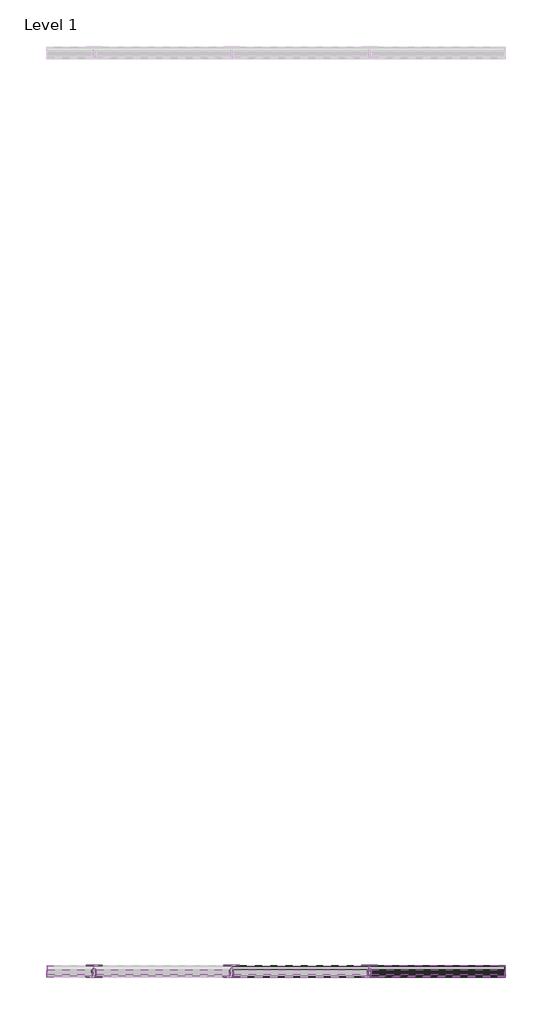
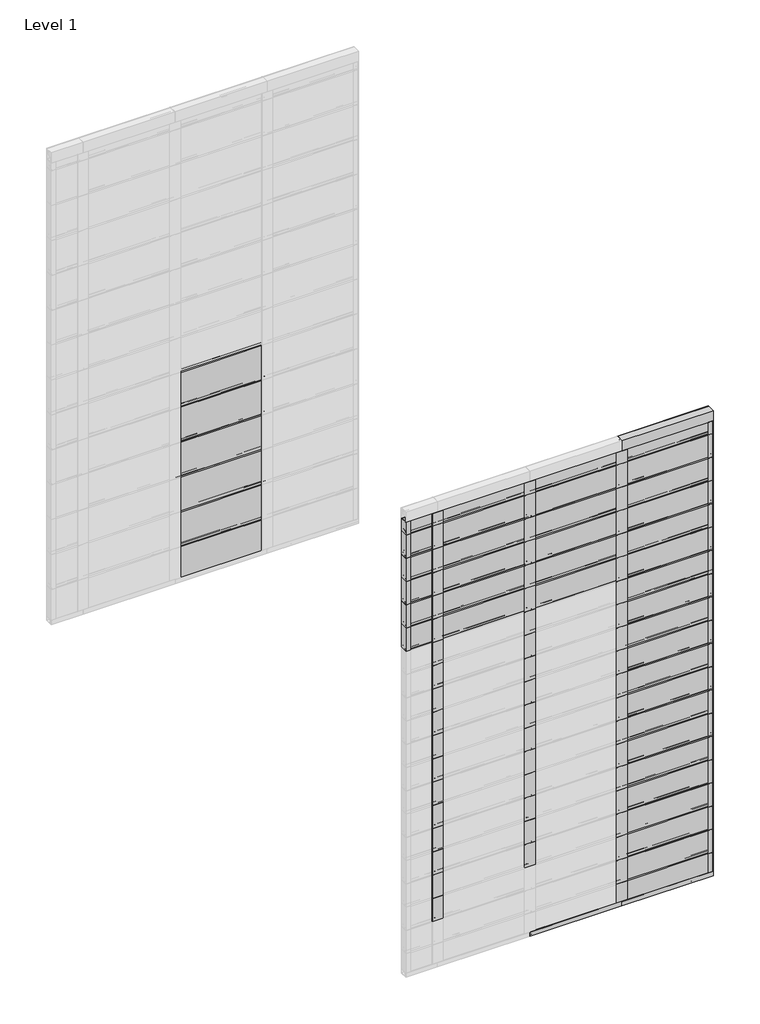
# One storey, part 5 of 6: 84 members, 44 plates.
"""IFC4 building model written with IfcOpenShell, lengths in millimetres."""

from ifc_helpers import new_model, si_unit, origin, place, context, project, spatial, transform, mapped, element, save
from components import rectangular_mullion_fastplank_2_piece_j_trim_top_41258425, rectangular_mullion_fastplank_2_piece_vertical_trim_b8f20e14, rectangular_mullion_fastplank_2_piece_vertical_trim_8e228b97, rectangular_mullion_fastplank_2_piece_vertical_trim_78afc4f4, rectangular_mullion_fastplank_general_j_vertical_left_750d52f3, rectangular_mullion_fastplank_general_j_vertical_left_688eca9a, rectangular_mullion_fastplank_general_j_vertical_left_7844d5d4, rectangular_mullion_fastplank_perforated_starter_j_trim_76a2169d, rectangular_mullion_fastplank_perforated_starter_j_trim_a5b82761, plate_9c8115fe, plate_4d58e162, plate_b9223dce, plate_ab3a2ce4, plate_89dcd24a

model = new_model("IFC4")

# Units and contexts
model_context = context("Model", 3, world=origin())
ifc_project = project(units=[si_unit("LENGTHUNIT", "METRE", prefix="MILLI")], contexts=[model_context])

# Site, building, storey
site = spatial("IfcSite", under=ifc_project)
building = spatial("IfcBuilding", under=site)
storey = spatial("IfcBuildingStorey", under=building, Name="Level 1", Elevation=0.0)

# Members
placement = place(None, origin())
rectangular_mullion_fastplank_2_piece_j_trim_top_shape = rectangular_mullion_fastplank_2_piece_j_trim_top_41258425(model_context)
element("IfcMember", 1, ObjectType="Rectangular Mullion : FastPlank_2-Piece-J-Trim-Top", at=placement, inside=storey, context=model_context, shape_type="MappedRepresentation", body=[
    mapped(rectangular_mullion_fastplank_2_piece_j_trim_top_shape, transform((-999.5316441, 7024.9134647, 2032.0), x_axis=(0.0, 0.0, 1.0), y_axis=(0.0, 1.0, 0.0), z_axis=(-1.0, 0.0, 0.0))),
])
rectangular_mullion_fastplank_2_piece_vertical_trim_shape = rectangular_mullion_fastplank_2_piece_vertical_trim_b8f20e14(model_context)
element("IfcMember", 2, ObjectType="Rectangular Mullion : FastPlank_2-Piece-Vertical-Trim", at=placement, inside=storey, context=model_context, shape_type="MappedRepresentation", body=[
    mapped(rectangular_mullion_fastplank_2_piece_vertical_trim_shape, transform((-999.5316441, 7024.9134647, 102.9000189), x_axis=(-1.0, 0.0, 0.0), y_axis=(0.0, 1.0, 0.0), z_axis=(0.0, 0.0, -1.0))),
])
element("IfcMember", 3, ObjectType="Rectangular Mullion : FastPlank_2-Piece-Vertical-Trim", at=placement, inside=storey, context=model_context, shape_type="MappedRepresentation", body=[
    mapped(rectangular_mullion_fastplank_2_piece_vertical_trim_shape, transform((-999.5316441, 7024.9134647, 204.5000189), x_axis=(-1.0, 0.0, 0.0), y_axis=(0.0, 1.0, 0.0), z_axis=(0.0, 0.0, -1.0))),
])
element("IfcMember", 4, ObjectType="Rectangular Mullion : FastPlank_2-Piece-Vertical-Trim", at=placement, inside=storey, context=model_context, shape_type="MappedRepresentation", body=[
    mapped(rectangular_mullion_fastplank_2_piece_vertical_trim_shape, transform((-999.5316441, 7024.9134647, 306.1000189), x_axis=(-1.0, 0.0, 0.0), y_axis=(0.0, 1.0, 0.0), z_axis=(0.0, 0.0, -1.0))),
])
element("IfcMember", 5, ObjectType="Rectangular Mullion : FastPlank_2-Piece-Vertical-Trim", at=placement, inside=storey, context=model_context, shape_type="MappedRepresentation", body=[
    mapped(rectangular_mullion_fastplank_2_piece_vertical_trim_shape, transform((-999.5316441, 7024.9134647, 407.7000189), x_axis=(-1.0, 0.0, 0.0), y_axis=(0.0, 1.0, 0.0), z_axis=(0.0, 0.0, -1.0))),
])
element("IfcMember", 6, ObjectType="Rectangular Mullion : FastPlank_2-Piece-Vertical-Trim", at=placement, inside=storey, context=model_context, shape_type="MappedRepresentation", body=[
    mapped(rectangular_mullion_fastplank_2_piece_vertical_trim_shape, transform((-999.5316441, 7024.9134647, 509.3000189), x_axis=(-1.0, 0.0, 0.0), y_axis=(0.0, 1.0, 0.0), z_axis=(0.0, 0.0, -1.0))),
])
element("IfcMember", 7, ObjectType="Rectangular Mullion : FastPlank_2-Piece-Vertical-Trim", at=placement, inside=storey, context=model_context, shape_type="MappedRepresentation", body=[
    mapped(rectangular_mullion_fastplank_2_piece_vertical_trim_shape, transform((-999.5316441, 7024.9134647, 610.9000189), x_axis=(-1.0, 0.0, 0.0), y_axis=(0.0, 1.0, 0.0), z_axis=(0.0, 0.0, -1.0))),
])
element("IfcMember", 8, ObjectType="Rectangular Mullion : FastPlank_2-Piece-Vertical-Trim", at=placement, inside=storey, context=model_context, shape_type="MappedRepresentation", body=[
    mapped(rectangular_mullion_fastplank_2_piece_vertical_trim_shape, transform((-999.5316441, 7024.9134647, 712.5000189), x_axis=(-1.0, 0.0, 0.0), y_axis=(0.0, 1.0, 0.0), z_axis=(0.0, 0.0, -1.0))),
])
element("IfcMember", 9, ObjectType="Rectangular Mullion : FastPlank_2-Piece-Vertical-Trim", at=placement, inside=storey, context=model_context, shape_type="MappedRepresentation", body=[
    mapped(rectangular_mullion_fastplank_2_piece_vertical_trim_shape, transform((-999.5316441, 7024.9134647, 814.1000189), x_axis=(-1.0, 0.0, 0.0), y_axis=(0.0, 1.0, 0.0), z_axis=(0.0, 0.0, -1.0))),
])
element("IfcMember", 10, ObjectType="Rectangular Mullion : FastPlank_2-Piece-Vertical-Trim", at=placement, inside=storey, context=model_context, shape_type="MappedRepresentation", body=[
    mapped(rectangular_mullion_fastplank_2_piece_vertical_trim_shape, transform((-999.5316441, 7024.9134647, 915.7000189), x_axis=(-1.0, 0.0, 0.0), y_axis=(0.0, 1.0, 0.0), z_axis=(0.0, 0.0, -1.0))),
])
element("IfcMember", 11, ObjectType="Rectangular Mullion : FastPlank_2-Piece-Vertical-Trim", at=placement, inside=storey, context=model_context, shape_type="MappedRepresentation", body=[
    mapped(rectangular_mullion_fastplank_2_piece_vertical_trim_shape, transform((-999.5316441, 7024.9134647, 1017.3000189), x_axis=(-1.0, 0.0, 0.0), y_axis=(0.0, 1.0, 0.0), z_axis=(0.0, 0.0, -1.0))),
])
element("IfcMember", 12, ObjectType="Rectangular Mullion : FastPlank_2-Piece-Vertical-Trim", at=placement, inside=storey, context=model_context, shape_type="MappedRepresentation", body=[
    mapped(rectangular_mullion_fastplank_2_piece_vertical_trim_shape, transform((-999.5316441, 7024.9134647, 1118.9000189), x_axis=(-1.0, 0.0, 0.0), y_axis=(0.0, 1.0, 0.0), z_axis=(0.0, 0.0, -1.0))),
])
element("IfcMember", 13, ObjectType="Rectangular Mullion : FastPlank_2-Piece-Vertical-Trim", at=placement, inside=storey, context=model_context, shape_type="MappedRepresentation", body=[
    mapped(rectangular_mullion_fastplank_2_piece_vertical_trim_shape, transform((-999.5316441, 7024.9134647, 1220.5000189), x_axis=(-1.0, 0.0, 0.0), y_axis=(0.0, 1.0, 0.0), z_axis=(0.0, 0.0, -1.0))),
])
element("IfcMember", 14, ObjectType="Rectangular Mullion : FastPlank_2-Piece-Vertical-Trim", at=placement, inside=storey, context=model_context, shape_type="MappedRepresentation", body=[
    mapped(rectangular_mullion_fastplank_2_piece_vertical_trim_shape, transform((-999.5316441, 7024.9134647, 1322.1000189), x_axis=(-1.0, 0.0, 0.0), y_axis=(0.0, 1.0, 0.0), z_axis=(0.0, 0.0, -1.0))),
])
element("IfcMember", 15, ObjectType="Rectangular Mullion : FastPlank_2-Piece-Vertical-Trim", at=placement, inside=storey, context=model_context, shape_type="MappedRepresentation", body=[
    mapped(rectangular_mullion_fastplank_2_piece_vertical_trim_shape, transform((-1761.5316441, 7024.9134647, 204.5000189), x_axis=(-1.0, 0.0, 0.0), y_axis=(0.0, 1.0, 0.0), z_axis=(0.0, 0.0, -1.0))),
])
element("IfcMember", 16, ObjectType="Rectangular Mullion : FastPlank_2-Piece-Vertical-Trim", at=placement, inside=storey, context=model_context, shape_type="MappedRepresentation", body=[
    mapped(rectangular_mullion_fastplank_2_piece_vertical_trim_shape, transform((-1380.5316441, 7024.9134647, 306.1000189), x_axis=(-1.0, 0.0, 0.0), y_axis=(0.0, 1.0, 0.0), z_axis=(0.0, 0.0, -1.0))),
])
element("IfcMember", 17, ObjectType="Rectangular Mullion : FastPlank_2-Piece-Vertical-Trim", at=placement, inside=storey, context=model_context, shape_type="MappedRepresentation", body=[
    mapped(rectangular_mullion_fastplank_2_piece_vertical_trim_shape, transform((-1761.5316441, 7024.9134647, 306.1000189), x_axis=(-1.0, 0.0, 0.0), y_axis=(0.0, 1.0, 0.0), z_axis=(0.0, 0.0, -1.0))),
])
element("IfcMember", 18, ObjectType="Rectangular Mullion : FastPlank_2-Piece-Vertical-Trim", at=placement, inside=storey, context=model_context, shape_type="MappedRepresentation", body=[
    mapped(rectangular_mullion_fastplank_2_piece_vertical_trim_shape, transform((-1380.5316441, 7024.9134647, 407.7000189), x_axis=(-1.0, 0.0, 0.0), y_axis=(0.0, 1.0, 0.0), z_axis=(0.0, 0.0, -1.0))),
])
element("IfcMember", 19, ObjectType="Rectangular Mullion : FastPlank_2-Piece-Vertical-Trim", at=placement, inside=storey, context=model_context, shape_type="MappedRepresentation", body=[
    mapped(rectangular_mullion_fastplank_2_piece_vertical_trim_shape, transform((-1761.5316441, 7024.9134647, 407.7000189), x_axis=(-1.0, 0.0, 0.0), y_axis=(0.0, 1.0, 0.0), z_axis=(0.0, 0.0, -1.0))),
])
element("IfcMember", 20, ObjectType="Rectangular Mullion : FastPlank_2-Piece-Vertical-Trim", at=placement, inside=storey, context=model_context, shape_type="MappedRepresentation", body=[
    mapped(rectangular_mullion_fastplank_2_piece_vertical_trim_shape, transform((-1380.5316441, 7024.9134647, 509.3000189), x_axis=(-1.0, 0.0, 0.0), y_axis=(0.0, 1.0, 0.0), z_axis=(0.0, 0.0, -1.0))),
])
element("IfcMember", 21, ObjectType="Rectangular Mullion : FastPlank_2-Piece-Vertical-Trim", at=placement, inside=storey, context=model_context, shape_type="MappedRepresentation", body=[
    mapped(rectangular_mullion_fastplank_2_piece_vertical_trim_shape, transform((-1761.5316441, 7024.9134647, 509.3000189), x_axis=(-1.0, 0.0, 0.0), y_axis=(0.0, 1.0, 0.0), z_axis=(0.0, 0.0, -1.0))),
])
element("IfcMember", 22, ObjectType="Rectangular Mullion : FastPlank_2-Piece-Vertical-Trim", at=placement, inside=storey, context=model_context, shape_type="MappedRepresentation", body=[
    mapped(rectangular_mullion_fastplank_2_piece_vertical_trim_shape, transform((-1380.5316441, 7024.9134647, 610.9000189), x_axis=(-1.0, 0.0, 0.0), y_axis=(0.0, 1.0, 0.0), z_axis=(0.0, 0.0, -1.0))),
])
element("IfcMember", 23, ObjectType="Rectangular Mullion : FastPlank_2-Piece-Vertical-Trim", at=placement, inside=storey, context=model_context, shape_type="MappedRepresentation", body=[
    mapped(rectangular_mullion_fastplank_2_piece_vertical_trim_shape, transform((-1761.5316441, 7024.9134647, 610.9000189), x_axis=(-1.0, 0.0, 0.0), y_axis=(0.0, 1.0, 0.0), z_axis=(0.0, 0.0, -1.0))),
])
element("IfcMember", 24, ObjectType="Rectangular Mullion : FastPlank_2-Piece-Vertical-Trim", at=placement, inside=storey, context=model_context, shape_type="MappedRepresentation", body=[
    mapped(rectangular_mullion_fastplank_2_piece_vertical_trim_shape, transform((-1380.5316441, 7024.9134647, 712.5000189), x_axis=(-1.0, 0.0, 0.0), y_axis=(0.0, 1.0, 0.0), z_axis=(0.0, 0.0, -1.0))),
])
element("IfcMember", 25, ObjectType="Rectangular Mullion : FastPlank_2-Piece-Vertical-Trim", at=placement, inside=storey, context=model_context, shape_type="MappedRepresentation", body=[
    mapped(rectangular_mullion_fastplank_2_piece_vertical_trim_shape, transform((-1761.5316441, 7024.9134647, 712.5000189), x_axis=(-1.0, 0.0, 0.0), y_axis=(0.0, 1.0, 0.0), z_axis=(0.0, 0.0, -1.0))),
])
element("IfcMember", 26, ObjectType="Rectangular Mullion : FastPlank_2-Piece-Vertical-Trim", at=placement, inside=storey, context=model_context, shape_type="MappedRepresentation", body=[
    mapped(rectangular_mullion_fastplank_2_piece_vertical_trim_shape, transform((-1380.5316441, 7024.9134647, 814.1000189), x_axis=(-1.0, 0.0, 0.0), y_axis=(0.0, 1.0, 0.0), z_axis=(0.0, 0.0, -1.0))),
])
element("IfcMember", 27, ObjectType="Rectangular Mullion : FastPlank_2-Piece-Vertical-Trim", at=placement, inside=storey, context=model_context, shape_type="MappedRepresentation", body=[
    mapped(rectangular_mullion_fastplank_2_piece_vertical_trim_shape, transform((-1761.5316441, 7024.9134647, 814.1000189), x_axis=(-1.0, 0.0, 0.0), y_axis=(0.0, 1.0, 0.0), z_axis=(0.0, 0.0, -1.0))),
])
element("IfcMember", 28, ObjectType="Rectangular Mullion : FastPlank_2-Piece-Vertical-Trim", at=placement, inside=storey, context=model_context, shape_type="MappedRepresentation", body=[
    mapped(rectangular_mullion_fastplank_2_piece_vertical_trim_shape, transform((-1380.5316441, 7024.9134647, 915.7000189), x_axis=(-1.0, 0.0, 0.0), y_axis=(0.0, 1.0, 0.0), z_axis=(0.0, 0.0, -1.0))),
])
element("IfcMember", 29, ObjectType="Rectangular Mullion : FastPlank_2-Piece-Vertical-Trim", at=placement, inside=storey, context=model_context, shape_type="MappedRepresentation", body=[
    mapped(rectangular_mullion_fastplank_2_piece_vertical_trim_shape, transform((-1761.5316441, 7024.9134647, 915.7000189), x_axis=(-1.0, 0.0, 0.0), y_axis=(0.0, 1.0, 0.0), z_axis=(0.0, 0.0, -1.0))),
])
element("IfcMember", 30, ObjectType="Rectangular Mullion : FastPlank_2-Piece-Vertical-Trim", at=placement, inside=storey, context=model_context, shape_type="MappedRepresentation", body=[
    mapped(rectangular_mullion_fastplank_2_piece_vertical_trim_shape, transform((-1380.5316441, 7024.9134647, 1017.3000189), x_axis=(-1.0, 0.0, 0.0), y_axis=(0.0, 1.0, 0.0), z_axis=(0.0, 0.0, -1.0))),
])
element("IfcMember", 31, ObjectType="Rectangular Mullion : FastPlank_2-Piece-Vertical-Trim", at=placement, inside=storey, context=model_context, shape_type="MappedRepresentation", body=[
    mapped(rectangular_mullion_fastplank_2_piece_vertical_trim_shape, transform((-1761.5316441, 7024.9134647, 1017.3000189), x_axis=(-1.0, 0.0, 0.0), y_axis=(0.0, 1.0, 0.0), z_axis=(0.0, 0.0, -1.0))),
])
element("IfcMember", 32, ObjectType="Rectangular Mullion : FastPlank_2-Piece-Vertical-Trim", at=placement, inside=storey, context=model_context, shape_type="MappedRepresentation", body=[
    mapped(rectangular_mullion_fastplank_2_piece_vertical_trim_shape, transform((-1380.5316441, 7024.9134647, 1118.9000189), x_axis=(-1.0, 0.0, 0.0), y_axis=(0.0, 1.0, 0.0), z_axis=(0.0, 0.0, -1.0))),
])
element("IfcMember", 33, ObjectType="Rectangular Mullion : FastPlank_2-Piece-Vertical-Trim", at=placement, inside=storey, context=model_context, shape_type="MappedRepresentation", body=[
    mapped(rectangular_mullion_fastplank_2_piece_vertical_trim_shape, transform((-1761.5316441, 7024.9134647, 1118.9000189), x_axis=(-1.0, 0.0, 0.0), y_axis=(0.0, 1.0, 0.0), z_axis=(0.0, 0.0, -1.0))),
])
element("IfcMember", 34, ObjectType="Rectangular Mullion : FastPlank_2-Piece-Vertical-Trim", at=placement, inside=storey, context=model_context, shape_type="MappedRepresentation", body=[
    mapped(rectangular_mullion_fastplank_2_piece_vertical_trim_shape, transform((-1380.5316441, 7024.9134647, 1220.5000189), x_axis=(-1.0, 0.0, 0.0), y_axis=(0.0, 1.0, 0.0), z_axis=(0.0, 0.0, -1.0))),
])
element("IfcMember", 35, ObjectType="Rectangular Mullion : FastPlank_2-Piece-Vertical-Trim", at=placement, inside=storey, context=model_context, shape_type="MappedRepresentation", body=[
    mapped(rectangular_mullion_fastplank_2_piece_vertical_trim_shape, transform((-1761.5316441, 7024.9134647, 1220.5000189), x_axis=(-1.0, 0.0, 0.0), y_axis=(0.0, 1.0, 0.0), z_axis=(0.0, 0.0, -1.0))),
])
element("IfcMember", 36, ObjectType="Rectangular Mullion : FastPlank_2-Piece-Vertical-Trim", at=placement, inside=storey, context=model_context, shape_type="MappedRepresentation", body=[
    mapped(rectangular_mullion_fastplank_2_piece_vertical_trim_shape, transform((-1380.5316441, 7024.9134647, 1322.1000189), x_axis=(-1.0, 0.0, 0.0), y_axis=(0.0, 1.0, 0.0), z_axis=(0.0, 0.0, -1.0))),
])
element("IfcMember", 37, ObjectType="Rectangular Mullion : FastPlank_2-Piece-Vertical-Trim", at=placement, inside=storey, context=model_context, shape_type="MappedRepresentation", body=[
    mapped(rectangular_mullion_fastplank_2_piece_vertical_trim_shape, transform((-1761.5316441, 7024.9134647, 1322.1000189), x_axis=(-1.0, 0.0, 0.0), y_axis=(0.0, 1.0, 0.0), z_axis=(0.0, 0.0, -1.0))),
])
element("IfcMember", 38, ObjectType="Rectangular Mullion : FastPlank_2-Piece-Vertical-Trim", at=placement, inside=storey, context=model_context, shape_type="MappedRepresentation", body=[
    mapped(rectangular_mullion_fastplank_2_piece_vertical_trim_shape, transform((-999.5316441, 7024.9134647, 1423.7000189), x_axis=(-1.0, 0.0, 0.0), y_axis=(0.0, 1.0, 0.0), z_axis=(0.0, 0.0, -1.0))),
])
element("IfcMember", 39, ObjectType="Rectangular Mullion : FastPlank_2-Piece-Vertical-Trim", at=placement, inside=storey, context=model_context, shape_type="MappedRepresentation", body=[
    mapped(rectangular_mullion_fastplank_2_piece_vertical_trim_shape, transform((-999.5316441, 7024.9134647, 1525.3000189), x_axis=(-1.0, 0.0, 0.0), y_axis=(0.0, 1.0, 0.0), z_axis=(0.0, 0.0, -1.0))),
])
element("IfcMember", 40, ObjectType="Rectangular Mullion : FastPlank_2-Piece-Vertical-Trim", at=placement, inside=storey, context=model_context, shape_type="MappedRepresentation", body=[
    mapped(rectangular_mullion_fastplank_2_piece_vertical_trim_shape, transform((-999.5316441, 7024.9134647, 1626.9000189), x_axis=(-1.0, 0.0, 0.0), y_axis=(0.0, 1.0, 0.0), z_axis=(0.0, 0.0, -1.0))),
])
element("IfcMember", 41, ObjectType="Rectangular Mullion : FastPlank_2-Piece-Vertical-Trim", at=placement, inside=storey, context=model_context, shape_type="MappedRepresentation", body=[
    mapped(rectangular_mullion_fastplank_2_piece_vertical_trim_shape, transform((-999.5316441, 7024.9134647, 1728.5000189), x_axis=(-1.0, 0.0, 0.0), y_axis=(0.0, 1.0, 0.0), z_axis=(0.0, 0.0, -1.0))),
])
element("IfcMember", 42, ObjectType="Rectangular Mullion : FastPlank_2-Piece-Vertical-Trim", at=placement, inside=storey, context=model_context, shape_type="MappedRepresentation", body=[
    mapped(rectangular_mullion_fastplank_2_piece_vertical_trim_shape, transform((-999.5316441, 7024.9134647, 1830.1000189), x_axis=(-1.0, 0.0, 0.0), y_axis=(0.0, 1.0, 0.0), z_axis=(0.0, 0.0, -1.0))),
])
element("IfcMember", 43, ObjectType="Rectangular Mullion : FastPlank_2-Piece-Vertical-Trim", at=placement, inside=storey, context=model_context, shape_type="MappedRepresentation", body=[
    mapped(rectangular_mullion_fastplank_2_piece_vertical_trim_shape, transform((-1380.5316441, 7024.9134647, 1423.7000189), x_axis=(-1.0, 0.0, 0.0), y_axis=(0.0, 1.0, 0.0), z_axis=(0.0, 0.0, -1.0))),
])
element("IfcMember", 44, ObjectType="Rectangular Mullion : FastPlank_2-Piece-Vertical-Trim", at=placement, inside=storey, context=model_context, shape_type="MappedRepresentation", body=[
    mapped(rectangular_mullion_fastplank_2_piece_vertical_trim_shape, transform((-1380.5316441, 7024.9134647, 1525.3000189), x_axis=(-1.0, 0.0, 0.0), y_axis=(0.0, 1.0, 0.0), z_axis=(0.0, 0.0, -1.0))),
])
element("IfcMember", 45, ObjectType="Rectangular Mullion : FastPlank_2-Piece-Vertical-Trim", at=placement, inside=storey, context=model_context, shape_type="MappedRepresentation", body=[
    mapped(rectangular_mullion_fastplank_2_piece_vertical_trim_shape, transform((-1380.5316441, 7024.9134647, 1626.9000189), x_axis=(-1.0, 0.0, 0.0), y_axis=(0.0, 1.0, 0.0), z_axis=(0.0, 0.0, -1.0))),
])
element("IfcMember", 46, ObjectType="Rectangular Mullion : FastPlank_2-Piece-Vertical-Trim", at=placement, inside=storey, context=model_context, shape_type="MappedRepresentation", body=[
    mapped(rectangular_mullion_fastplank_2_piece_vertical_trim_shape, transform((-1380.5316441, 7024.9134647, 1728.5000189), x_axis=(-1.0, 0.0, 0.0), y_axis=(0.0, 1.0, 0.0), z_axis=(0.0, 0.0, -1.0))),
])
element("IfcMember", 47, ObjectType="Rectangular Mullion : FastPlank_2-Piece-Vertical-Trim", at=placement, inside=storey, context=model_context, shape_type="MappedRepresentation", body=[
    mapped(rectangular_mullion_fastplank_2_piece_vertical_trim_shape, transform((-1380.5316441, 7024.9134647, 1830.1000189), x_axis=(-1.0, 0.0, 0.0), y_axis=(0.0, 1.0, 0.0), z_axis=(0.0, 0.0, -1.0))),
])
element("IfcMember", 48, ObjectType="Rectangular Mullion : FastPlank_2-Piece-Vertical-Trim", at=placement, inside=storey, context=model_context, shape_type="MappedRepresentation", body=[
    mapped(rectangular_mullion_fastplank_2_piece_vertical_trim_shape, transform((-1761.5316441, 7024.9134647, 1423.7000189), x_axis=(-1.0, 0.0, 0.0), y_axis=(0.0, 1.0, 0.0), z_axis=(0.0, 0.0, -1.0))),
])
element("IfcMember", 49, ObjectType="Rectangular Mullion : FastPlank_2-Piece-Vertical-Trim", at=placement, inside=storey, context=model_context, shape_type="MappedRepresentation", body=[
    mapped(rectangular_mullion_fastplank_2_piece_vertical_trim_shape, transform((-1761.5316441, 7024.9134647, 1525.3000189), x_axis=(-1.0, 0.0, 0.0), y_axis=(0.0, 1.0, 0.0), z_axis=(0.0, 0.0, -1.0))),
])
element("IfcMember", 50, ObjectType="Rectangular Mullion : FastPlank_2-Piece-Vertical-Trim", at=placement, inside=storey, context=model_context, shape_type="MappedRepresentation", body=[
    mapped(rectangular_mullion_fastplank_2_piece_vertical_trim_shape, transform((-1761.5316441, 7024.9134647, 1626.9000189), x_axis=(-1.0, 0.0, 0.0), y_axis=(0.0, 1.0, 0.0), z_axis=(0.0, 0.0, -1.0))),
])
element("IfcMember", 51, ObjectType="Rectangular Mullion : FastPlank_2-Piece-Vertical-Trim", at=placement, inside=storey, context=model_context, shape_type="MappedRepresentation", body=[
    mapped(rectangular_mullion_fastplank_2_piece_vertical_trim_shape, transform((-1761.5316441, 7024.9134647, 1728.5000189), x_axis=(-1.0, 0.0, 0.0), y_axis=(0.0, 1.0, 0.0), z_axis=(0.0, 0.0, -1.0))),
])
element("IfcMember", 52, ObjectType="Rectangular Mullion : FastPlank_2-Piece-Vertical-Trim", at=placement, inside=storey, context=model_context, shape_type="MappedRepresentation", body=[
    mapped(rectangular_mullion_fastplank_2_piece_vertical_trim_shape, transform((-1761.5316441, 7024.9134647, 1830.1000189), x_axis=(-1.0, 0.0, 0.0), y_axis=(0.0, 1.0, 0.0), z_axis=(0.0, 0.0, -1.0))),
])
rectangular_mullion_fastplank_2_piece_vertical_trim_2_shape = rectangular_mullion_fastplank_2_piece_vertical_trim_8e228b97(model_context)
element("IfcMember", 53, ObjectType="Rectangular Mullion : FastPlank_2-Piece-Vertical-Trim", at=placement, inside=storey, context=model_context, shape_type="MappedRepresentation", body=[
    mapped(rectangular_mullion_fastplank_2_piece_vertical_trim_2_shape, transform((-999.5316441, 7024.9134647, 1931.7000189), x_axis=(-1.0, 0.0, 0.0), y_axis=(0.0, 1.0, 0.0), z_axis=(0.0, 0.0, -1.0))),
])
element("IfcMember", 54, ObjectType="Rectangular Mullion : FastPlank_2-Piece-Vertical-Trim", at=placement, inside=storey, context=model_context, shape_type="MappedRepresentation", body=[
    mapped(rectangular_mullion_fastplank_2_piece_vertical_trim_2_shape, transform((-1380.5316441, 7024.9134647, 1931.7000189), x_axis=(-1.0, 0.0, 0.0), y_axis=(0.0, 1.0, 0.0), z_axis=(0.0, 0.0, -1.0))),
])
element("IfcMember", 55, ObjectType="Rectangular Mullion : FastPlank_2-Piece-Vertical-Trim", at=placement, inside=storey, context=model_context, shape_type="MappedRepresentation", body=[
    mapped(rectangular_mullion_fastplank_2_piece_vertical_trim_2_shape, transform((-1761.5316441, 7024.9134647, 1931.7000189), x_axis=(-1.0, 0.0, 0.0), y_axis=(0.0, 1.0, 0.0), z_axis=(0.0, 0.0, -1.0))),
])
rectangular_mullion_fastplank_2_piece_vertical_trim_3_shape = rectangular_mullion_fastplank_2_piece_vertical_trim_78afc4f4(model_context)
element("IfcMember", 56, ObjectType="Rectangular Mullion : FastPlank_2-Piece-Vertical-Trim", at=placement, inside=storey, context=model_context, shape_type="MappedRepresentation", body=[
    mapped(rectangular_mullion_fastplank_2_piece_vertical_trim_3_shape, transform((-999.5316441, 7024.9134647, 19.05), x_axis=(-1.0, 0.0, 0.0), y_axis=(0.0, 1.0, 0.0), z_axis=(0.0, 0.0, -1.0))),
])
rectangular_mullion_fastplank_general_j_vertical_left_shape = rectangular_mullion_fastplank_general_j_vertical_left_750d52f3(model_context)
element("IfcMember", 57, ObjectType="Rectangular Mullion : FastPlank_General-J-Vertical-Left", at=placement, inside=storey, context=model_context, shape_type="MappedRepresentation", body=[
    mapped(rectangular_mullion_fastplank_general_j_vertical_left_shape, transform((-1892.9700325, 7024.9134647, 1423.7000189), x_axis=(-1.0, 0.0, 0.0), y_axis=(0.0, 1.0, 0.0), z_axis=(0.0, 0.0, -1.0))),
])
element("IfcMember", 58, ObjectType="Rectangular Mullion : FastPlank_General-J-Vertical-Left", at=placement, inside=storey, context=model_context, shape_type="MappedRepresentation", body=[
    mapped(rectangular_mullion_fastplank_general_j_vertical_left_shape, transform((-1892.9700325, 7024.9134647, 1525.3000189), x_axis=(-1.0, 0.0, 0.0), y_axis=(0.0, 1.0, 0.0), z_axis=(0.0, 0.0, -1.0))),
])
element("IfcMember", 59, ObjectType="Rectangular Mullion : FastPlank_General-J-Vertical-Left", at=placement, inside=storey, context=model_context, shape_type="MappedRepresentation", body=[
    mapped(rectangular_mullion_fastplank_general_j_vertical_left_shape, transform((-1892.9700325, 7024.9134647, 1626.9000189), x_axis=(-1.0, 0.0, 0.0), y_axis=(0.0, 1.0, 0.0), z_axis=(0.0, 0.0, -1.0))),
])
element("IfcMember", 60, ObjectType="Rectangular Mullion : FastPlank_General-J-Vertical-Left", at=placement, inside=storey, context=model_context, shape_type="MappedRepresentation", body=[
    mapped(rectangular_mullion_fastplank_general_j_vertical_left_shape, transform((-1892.9700325, 7024.9134647, 1728.5000189), x_axis=(-1.0, 0.0, 0.0), y_axis=(0.0, 1.0, 0.0), z_axis=(0.0, 0.0, -1.0))),
])
element("IfcMember", 61, ObjectType="Rectangular Mullion : FastPlank_General-J-Vertical-Left", at=placement, inside=storey, context=model_context, shape_type="MappedRepresentation", body=[
    mapped(rectangular_mullion_fastplank_general_j_vertical_left_shape, transform((-1892.9700325, 7024.9134647, 1830.1000189), x_axis=(-1.0, 0.0, 0.0), y_axis=(0.0, 1.0, 0.0), z_axis=(0.0, 0.0, -1.0))),
])
rectangular_mullion_fastplank_general_j_vertical_left_2_shape = rectangular_mullion_fastplank_general_j_vertical_left_688eca9a(model_context)
element("IfcMember", 62, ObjectType="Rectangular Mullion : FastPlank_General-J-Vertical-Left", at=placement, inside=storey, context=model_context, shape_type="MappedRepresentation", body=[
    mapped(rectangular_mullion_fastplank_general_j_vertical_left_2_shape, transform((-1892.9700325, 7024.9134647, 1931.7000189), x_axis=(-1.0, 0.0, 0.0), y_axis=(0.0, 1.0, 0.0), z_axis=(0.0, 0.0, -1.0))),
])
element("IfcMember", 63, ObjectType="Rectangular Mullion : FastPlank_General-J-Vertical-Right", at=placement, inside=storey, context=model_context, shape_type="MappedRepresentation", body=[
    mapped(rectangular_mullion_fastplank_general_j_vertical_left_shape, transform((-622.9700325, 7024.9134647, 204.5000189), x_axis=(1.0, 0.0, 0.0), y_axis=(0.0, 1.0, 0.0), z_axis=(0.0, 0.0, 1.0))),
])
element("IfcMember", 64, ObjectType="Rectangular Mullion : FastPlank_General-J-Vertical-Right", at=placement, inside=storey, context=model_context, shape_type="MappedRepresentation", body=[
    mapped(rectangular_mullion_fastplank_general_j_vertical_left_shape, transform((-622.9700325, 7024.9134647, 306.1000189), x_axis=(1.0, 0.0, 0.0), y_axis=(0.0, 1.0, 0.0), z_axis=(0.0, 0.0, 1.0))),
])
element("IfcMember", 65, ObjectType="Rectangular Mullion : FastPlank_General-J-Vertical-Right", at=placement, inside=storey, context=model_context, shape_type="MappedRepresentation", body=[
    mapped(rectangular_mullion_fastplank_general_j_vertical_left_shape, transform((-622.9700325, 7024.9134647, 407.7000189), x_axis=(1.0, 0.0, 0.0), y_axis=(0.0, 1.0, 0.0), z_axis=(0.0, 0.0, 1.0))),
])
element("IfcMember", 66, ObjectType="Rectangular Mullion : FastPlank_General-J-Vertical-Right", at=placement, inside=storey, context=model_context, shape_type="MappedRepresentation", body=[
    mapped(rectangular_mullion_fastplank_general_j_vertical_left_shape, transform((-622.9700325, 7024.9134647, 509.3000189), x_axis=(1.0, 0.0, 0.0), y_axis=(0.0, 1.0, 0.0), z_axis=(0.0, 0.0, 1.0))),
])
element("IfcMember", 67, ObjectType="Rectangular Mullion : FastPlank_General-J-Vertical-Right", at=placement, inside=storey, context=model_context, shape_type="MappedRepresentation", body=[
    mapped(rectangular_mullion_fastplank_general_j_vertical_left_shape, transform((-622.9700325, 7024.9134647, 610.9000189), x_axis=(1.0, 0.0, 0.0), y_axis=(0.0, 1.0, 0.0), z_axis=(0.0, 0.0, 1.0))),
])
element("IfcMember", 68, ObjectType="Rectangular Mullion : FastPlank_General-J-Vertical-Right", at=placement, inside=storey, context=model_context, shape_type="MappedRepresentation", body=[
    mapped(rectangular_mullion_fastplank_general_j_vertical_left_shape, transform((-622.9700325, 7024.9134647, 712.5000189), x_axis=(1.0, 0.0, 0.0), y_axis=(0.0, 1.0, 0.0), z_axis=(0.0, 0.0, 1.0))),
])
element("IfcMember", 69, ObjectType="Rectangular Mullion : FastPlank_General-J-Vertical-Right", at=placement, inside=storey, context=model_context, shape_type="MappedRepresentation", body=[
    mapped(rectangular_mullion_fastplank_general_j_vertical_left_shape, transform((-622.9700325, 7024.9134647, 814.1000189), x_axis=(1.0, 0.0, 0.0), y_axis=(0.0, 1.0, 0.0), z_axis=(0.0, 0.0, 1.0))),
])
element("IfcMember", 70, ObjectType="Rectangular Mullion : FastPlank_General-J-Vertical-Right", at=placement, inside=storey, context=model_context, shape_type="MappedRepresentation", body=[
    mapped(rectangular_mullion_fastplank_general_j_vertical_left_shape, transform((-622.9700325, 7024.9134647, 915.7000189), x_axis=(1.0, 0.0, 0.0), y_axis=(0.0, 1.0, 0.0), z_axis=(0.0, 0.0, 1.0))),
])
element("IfcMember", 71, ObjectType="Rectangular Mullion : FastPlank_General-J-Vertical-Right", at=placement, inside=storey, context=model_context, shape_type="MappedRepresentation", body=[
    mapped(rectangular_mullion_fastplank_general_j_vertical_left_shape, transform((-622.9700325, 7024.9134647, 1017.3000189), x_axis=(1.0, 0.0, 0.0), y_axis=(0.0, 1.0, 0.0), z_axis=(0.0, 0.0, 1.0))),
])
element("IfcMember", 72, ObjectType="Rectangular Mullion : FastPlank_General-J-Vertical-Right", at=placement, inside=storey, context=model_context, shape_type="MappedRepresentation", body=[
    mapped(rectangular_mullion_fastplank_general_j_vertical_left_shape, transform((-622.9700325, 7024.9134647, 1118.9000189), x_axis=(1.0, 0.0, 0.0), y_axis=(0.0, 1.0, 0.0), z_axis=(0.0, 0.0, 1.0))),
])
element("IfcMember", 73, ObjectType="Rectangular Mullion : FastPlank_General-J-Vertical-Right", at=placement, inside=storey, context=model_context, shape_type="MappedRepresentation", body=[
    mapped(rectangular_mullion_fastplank_general_j_vertical_left_shape, transform((-622.9700325, 7024.9134647, 1220.5000189), x_axis=(1.0, 0.0, 0.0), y_axis=(0.0, 1.0, 0.0), z_axis=(0.0, 0.0, 1.0))),
])
element("IfcMember", 74, ObjectType="Rectangular Mullion : FastPlank_General-J-Vertical-Right", at=placement, inside=storey, context=model_context, shape_type="MappedRepresentation", body=[
    mapped(rectangular_mullion_fastplank_general_j_vertical_left_shape, transform((-622.9700325, 7024.9134647, 1322.1000189), x_axis=(1.0, 0.0, 0.0), y_axis=(0.0, 1.0, 0.0), z_axis=(0.0, 0.0, 1.0))),
])
element("IfcMember", 75, ObjectType="Rectangular Mullion : FastPlank_General-J-Vertical-Right", at=placement, inside=storey, context=model_context, shape_type="MappedRepresentation", body=[
    mapped(rectangular_mullion_fastplank_general_j_vertical_left_shape, transform((-622.9700325, 7024.9134647, 1423.7000189), x_axis=(1.0, 0.0, 0.0), y_axis=(0.0, 1.0, 0.0), z_axis=(0.0, 0.0, 1.0))),
])
element("IfcMember", 76, ObjectType="Rectangular Mullion : FastPlank_General-J-Vertical-Right", at=placement, inside=storey, context=model_context, shape_type="MappedRepresentation", body=[
    mapped(rectangular_mullion_fastplank_general_j_vertical_left_shape, transform((-622.9700325, 7024.9134647, 1525.3000189), x_axis=(1.0, 0.0, 0.0), y_axis=(0.0, 1.0, 0.0), z_axis=(0.0, 0.0, 1.0))),
])
element("IfcMember", 77, ObjectType="Rectangular Mullion : FastPlank_General-J-Vertical-Right", at=placement, inside=storey, context=model_context, shape_type="MappedRepresentation", body=[
    mapped(rectangular_mullion_fastplank_general_j_vertical_left_shape, transform((-622.9700325, 7024.9134647, 1626.9000189), x_axis=(1.0, 0.0, 0.0), y_axis=(0.0, 1.0, 0.0), z_axis=(0.0, 0.0, 1.0))),
])
element("IfcMember", 78, ObjectType="Rectangular Mullion : FastPlank_General-J-Vertical-Right", at=placement, inside=storey, context=model_context, shape_type="MappedRepresentation", body=[
    mapped(rectangular_mullion_fastplank_general_j_vertical_left_shape, transform((-622.9700325, 7024.9134647, 1728.5000189), x_axis=(1.0, 0.0, 0.0), y_axis=(0.0, 1.0, 0.0), z_axis=(0.0, 0.0, 1.0))),
])
element("IfcMember", 79, ObjectType="Rectangular Mullion : FastPlank_General-J-Vertical-Right", at=placement, inside=storey, context=model_context, shape_type="MappedRepresentation", body=[
    mapped(rectangular_mullion_fastplank_general_j_vertical_left_shape, transform((-622.9700325, 7024.9134647, 1830.1000189), x_axis=(1.0, 0.0, 0.0), y_axis=(0.0, 1.0, 0.0), z_axis=(0.0, 0.0, 1.0))),
])
element("IfcMember", 80, ObjectType="Rectangular Mullion : FastPlank_General-J-Vertical-Right", at=placement, inside=storey, context=model_context, shape_type="MappedRepresentation", body=[
    mapped(rectangular_mullion_fastplank_general_j_vertical_left_shape, transform((-622.9700325, 7024.9134647, 1931.7000189), x_axis=(1.0, 0.0, 0.0), y_axis=(0.0, 1.0, 0.0), z_axis=(0.0, 0.0, 1.0))),
])
element("IfcMember", 81, ObjectType="Rectangular Mullion : FastPlank_General-J-Vertical-Right", at=placement, inside=storey, context=model_context, shape_type="MappedRepresentation", body=[
    mapped(rectangular_mullion_fastplank_general_j_vertical_left_2_shape, transform((-622.9700325, 7024.9134647, 1987.5524985), x_axis=(1.0, 0.0, 0.0), y_axis=(0.0, 1.0, 0.0), z_axis=(0.0, 0.0, 1.0))),
])
rectangular_mullion_fastplank_general_j_vertical_left_3_shape = rectangular_mullion_fastplank_general_j_vertical_left_7844d5d4(model_context)
element("IfcMember", 82, ObjectType="Rectangular Mullion : FastPlank_General-J-Vertical-Right", at=placement, inside=storey, context=model_context, shape_type="MappedRepresentation", body=[
    mapped(rectangular_mullion_fastplank_general_j_vertical_left_3_shape, transform((-622.9700325, 7024.9134647, 102.9000189), x_axis=(1.0, 0.0, 0.0), y_axis=(0.0, 1.0, 0.0), z_axis=(0.0, 0.0, 1.0))),
])
rectangular_mullion_fastplank_perforated_starter_j_trim_shape = rectangular_mullion_fastplank_perforated_starter_j_trim_76a2169d(model_context)
element("IfcMember", 83, ObjectType="Rectangular Mullion : FastPlank_Perforated-Starter-J-Trim", at=placement, inside=storey, context=model_context, shape_type="MappedRepresentation", body=[
    mapped(rectangular_mullion_fastplank_perforated_starter_j_trim_shape, transform((-999.5316441, 7024.9134647, 0.0), x_axis=(0.0, 0.0, -1.0), y_axis=(0.0, 1.0, 0.0), z_axis=(1.0, 0.0, 0.0))),
])
rectangular_mullion_fastplank_perforated_starter_j_trim_2_shape = rectangular_mullion_fastplank_perforated_starter_j_trim_a5b82761(model_context)
element("IfcMember", 84, ObjectType="Rectangular Mullion : FastPlank_Perforated-Starter-J-Trim", at=placement, inside=storey, context=model_context, shape_type="MappedRepresentation", body=[
    mapped(rectangular_mullion_fastplank_perforated_starter_j_trim_2_shape, transform((-622.9700325, 7024.9134647, 0.0), x_axis=(0.0, 0.0, -1.0), y_axis=(0.0, 1.0, 0.0), z_axis=(1.0, 0.0, 0.0))),
])

# Plates
plate_shape = plate_9c8115fe(model_context)
element("IfcPlate", 85, ObjectType="FastPlank_P44V-V-Notch-4″-Plank-Horizontal : P44V-V-Notch-4″-Plank-Horizontal", at=placement, inside=storey, context=model_context, shape_type="MappedRepresentation", body=[
    mapped(plate_shape, transform((-809.0316439, 7024.9134647, 1.3000189), x_axis=(-1.0, 0.0, 0.0), y_axis=(0.0, -1.0, 0.0), z_axis=(0.0, 0.0, 1.0))),
])
element("IfcPlate", 86, ObjectType="FastPlank_P44V-V-Notch-4″-Plank-Horizontal : P44V-V-Notch-4″-Plank-Horizontal", at=placement, inside=storey, context=model_context, shape_type="MappedRepresentation", body=[
    mapped(plate_shape, transform((-809.0316439, 7024.9134647, 102.9000189), x_axis=(-1.0, 0.0, 0.0), y_axis=(0.0, -1.0, 0.0), z_axis=(0.0, 0.0, 1.0))),
])
element("IfcPlate", 87, ObjectType="FastPlank_P44V-V-Notch-4″-Plank-Horizontal : P44V-V-Notch-4″-Plank-Horizontal", at=placement, inside=storey, context=model_context, shape_type="MappedRepresentation", body=[
    mapped(plate_shape, transform((-809.0316439, 7024.9134647, 204.5000189), x_axis=(-1.0, 0.0, 0.0), y_axis=(0.0, -1.0, 0.0), z_axis=(0.0, 0.0, 1.0))),
])
element("IfcPlate", 88, ObjectType="FastPlank_P44V-V-Notch-4″-Plank-Horizontal : P44V-V-Notch-4″-Plank-Horizontal", at=placement, inside=storey, context=model_context, shape_type="MappedRepresentation", body=[
    mapped(plate_shape, transform((-809.0316439, 7024.9134647, 306.1000189), x_axis=(-1.0, 0.0, 0.0), y_axis=(0.0, -1.0, 0.0), z_axis=(0.0, 0.0, 1.0))),
])
element("IfcPlate", 89, ObjectType="FastPlank_P44V-V-Notch-4″-Plank-Horizontal : P44V-V-Notch-4″-Plank-Horizontal", at=placement, inside=storey, context=model_context, shape_type="MappedRepresentation", body=[
    mapped(plate_shape, transform((-809.0316439, 7024.9134647, 407.7000189), x_axis=(-1.0, 0.0, 0.0), y_axis=(0.0, -1.0, 0.0), z_axis=(0.0, 0.0, 1.0))),
])
element("IfcPlate", 90, ObjectType="FastPlank_P44V-V-Notch-4″-Plank-Horizontal : P44V-V-Notch-4″-Plank-Horizontal", at=placement, inside=storey, context=model_context, shape_type="MappedRepresentation", body=[
    mapped(plate_shape, transform((-809.0316439, 7024.9134647, 509.3000189), x_axis=(-1.0, 0.0, 0.0), y_axis=(0.0, -1.0, 0.0), z_axis=(0.0, 0.0, 1.0))),
])
element("IfcPlate", 91, ObjectType="FastPlank_P44V-V-Notch-4″-Plank-Horizontal : P44V-V-Notch-4″-Plank-Horizontal", at=placement, inside=storey, context=model_context, shape_type="MappedRepresentation", body=[
    mapped(plate_shape, transform((-809.0316439, 7024.9134647, 610.9000189), x_axis=(-1.0, 0.0, 0.0), y_axis=(0.0, -1.0, 0.0), z_axis=(0.0, 0.0, 1.0))),
])
element("IfcPlate", 92, ObjectType="FastPlank_P44V-V-Notch-4″-Plank-Horizontal : P44V-V-Notch-4″-Plank-Horizontal", at=placement, inside=storey, context=model_context, shape_type="MappedRepresentation", body=[
    mapped(plate_shape, transform((-809.0316439, 7024.9134647, 712.5000189), x_axis=(-1.0, 0.0, 0.0), y_axis=(0.0, -1.0, 0.0), z_axis=(0.0, 0.0, 1.0))),
])
element("IfcPlate", 93, ObjectType="FastPlank_P44V-V-Notch-4″-Plank-Horizontal : P44V-V-Notch-4″-Plank-Horizontal", at=placement, inside=storey, context=model_context, shape_type="MappedRepresentation", body=[
    mapped(plate_shape, transform((-809.0316439, 7024.9134647, 814.1000189), x_axis=(-1.0, 0.0, 0.0), y_axis=(0.0, -1.0, 0.0), z_axis=(0.0, 0.0, 1.0))),
])
element("IfcPlate", 94, ObjectType="FastPlank_P44V-V-Notch-4″-Plank-Horizontal : P44V-V-Notch-4″-Plank-Horizontal", at=placement, inside=storey, context=model_context, shape_type="MappedRepresentation", body=[
    mapped(plate_shape, transform((-809.0316439, 7024.9134647, 915.7000189), x_axis=(-1.0, 0.0, 0.0), y_axis=(0.0, -1.0, 0.0), z_axis=(0.0, 0.0, 1.0))),
])
element("IfcPlate", 95, ObjectType="FastPlank_P44V-V-Notch-4″-Plank-Horizontal : P44V-V-Notch-4″-Plank-Horizontal", at=placement, inside=storey, context=model_context, shape_type="MappedRepresentation", body=[
    mapped(plate_shape, transform((-809.0316439, 7024.9134647, 1017.3000189), x_axis=(-1.0, 0.0, 0.0), y_axis=(0.0, -1.0, 0.0), z_axis=(0.0, 0.0, 1.0))),
])
element("IfcPlate", 96, ObjectType="FastPlank_P44V-V-Notch-4″-Plank-Horizontal : P44V-V-Notch-4″-Plank-Horizontal", at=placement, inside=storey, context=model_context, shape_type="MappedRepresentation", body=[
    mapped(plate_shape, transform((-809.0316439, 7024.9134647, 1118.9000189), x_axis=(-1.0, 0.0, 0.0), y_axis=(0.0, -1.0, 0.0), z_axis=(0.0, 0.0, 1.0))),
])
element("IfcPlate", 97, ObjectType="FastPlank_P44V-V-Notch-4″-Plank-Horizontal : P44V-V-Notch-4″-Plank-Horizontal", at=placement, inside=storey, context=model_context, shape_type="MappedRepresentation", body=[
    mapped(plate_shape, transform((-809.0316439, 7024.9134647, 1220.5000189), x_axis=(-1.0, 0.0, 0.0), y_axis=(0.0, -1.0, 0.0), z_axis=(0.0, 0.0, 1.0))),
])
element("IfcPlate", 98, ObjectType="FastPlank_P44V-V-Notch-4″-Plank-Horizontal : P44V-V-Notch-4″-Plank-Horizontal", at=placement, inside=storey, context=model_context, shape_type="MappedRepresentation", body=[
    mapped(plate_shape, transform((-809.0316439, 7024.9134647, 1322.1000189), x_axis=(-1.0, 0.0, 0.0), y_axis=(0.0, -1.0, 0.0), z_axis=(0.0, 0.0, 1.0))),
])
element("IfcPlate", 99, ObjectType="FastPlank_P44V-V-Notch-4″-Plank-Horizontal : P44V-V-Notch-4″-Plank-Horizontal", at=placement, inside=storey, context=model_context, shape_type="MappedRepresentation", body=[
    mapped(plate_shape, transform((-809.0316439, 7024.9134647, 1423.7000189), x_axis=(-1.0, 0.0, 0.0), y_axis=(0.0, -1.0, 0.0), z_axis=(0.0, 0.0, 1.0))),
])
element("IfcPlate", 100, ObjectType="FastPlank_P44V-V-Notch-4″-Plank-Horizontal : P44V-V-Notch-4″-Plank-Horizontal", at=placement, inside=storey, context=model_context, shape_type="MappedRepresentation", body=[
    mapped(plate_shape, transform((-1190.0316441, 7024.9134647, 1423.7000189), x_axis=(-1.0, 0.0, 0.0), y_axis=(0.0, -1.0, 0.0), z_axis=(0.0, 0.0, 1.0))),
])
element("IfcPlate", 101, ObjectType="FastPlank_P44V-V-Notch-4″-Plank-Horizontal : P44V-V-Notch-4″-Plank-Horizontal", at=placement, inside=storey, context=model_context, shape_type="MappedRepresentation", body=[
    mapped(plate_shape, transform((-1571.0316441, 7024.9134647, 1423.7000189), x_axis=(-1.0, 0.0, 0.0), y_axis=(0.0, -1.0, 0.0), z_axis=(0.0, 0.0, 1.0))),
])
element("IfcPlate", 102, ObjectType="FastPlank_P44V-V-Notch-4″-Plank-Horizontal : P44V-V-Notch-4″-Plank-Horizontal", at=placement, inside=storey, context=model_context, shape_type="MappedRepresentation", body=[
    mapped(plate_shape, transform((-809.0316439, 7024.9134647, 1525.3000189), x_axis=(-1.0, 0.0, 0.0), y_axis=(0.0, -1.0, 0.0), z_axis=(0.0, 0.0, 1.0))),
])
element("IfcPlate", 103, ObjectType="FastPlank_P44V-V-Notch-4″-Plank-Horizontal : P44V-V-Notch-4″-Plank-Horizontal", at=placement, inside=storey, context=model_context, shape_type="MappedRepresentation", body=[
    mapped(plate_shape, transform((-1190.0316441, 7024.9134647, 1525.3000189), x_axis=(-1.0, 0.0, 0.0), y_axis=(0.0, -1.0, 0.0), z_axis=(0.0, 0.0, 1.0))),
])
element("IfcPlate", 104, ObjectType="FastPlank_P44V-V-Notch-4″-Plank-Horizontal : P44V-V-Notch-4″-Plank-Horizontal", at=placement, inside=storey, context=model_context, shape_type="MappedRepresentation", body=[
    mapped(plate_shape, transform((-1571.0316441, 7024.9134647, 1525.3000189), x_axis=(-1.0, 0.0, 0.0), y_axis=(0.0, -1.0, 0.0), z_axis=(0.0, 0.0, 1.0))),
])
element("IfcPlate", 105, ObjectType="FastPlank_P44V-V-Notch-4″-Plank-Horizontal : P44V-V-Notch-4″-Plank-Horizontal", at=placement, inside=storey, context=model_context, shape_type="MappedRepresentation", body=[
    mapped(plate_shape, transform((-809.0316439, 7024.9134647, 1626.9000189), x_axis=(-1.0, 0.0, 0.0), y_axis=(0.0, -1.0, 0.0), z_axis=(0.0, 0.0, 1.0))),
])
element("IfcPlate", 106, ObjectType="FastPlank_P44V-V-Notch-4″-Plank-Horizontal : P44V-V-Notch-4″-Plank-Horizontal", at=placement, inside=storey, context=model_context, shape_type="MappedRepresentation", body=[
    mapped(plate_shape, transform((-1190.0316441, 7024.9134647, 1626.9000189), x_axis=(-1.0, 0.0, 0.0), y_axis=(0.0, -1.0, 0.0), z_axis=(0.0, 0.0, 1.0))),
])
element("IfcPlate", 107, ObjectType="FastPlank_P44V-V-Notch-4″-Plank-Horizontal : P44V-V-Notch-4″-Plank-Horizontal", at=placement, inside=storey, context=model_context, shape_type="MappedRepresentation", body=[
    mapped(plate_shape, transform((-1571.0316441, 7024.9134647, 1626.9000189), x_axis=(-1.0, 0.0, 0.0), y_axis=(0.0, -1.0, 0.0), z_axis=(0.0, 0.0, 1.0))),
])
element("IfcPlate", 108, ObjectType="FastPlank_P44V-V-Notch-4″-Plank-Horizontal : P44V-V-Notch-4″-Plank-Horizontal", at=placement, inside=storey, context=model_context, shape_type="MappedRepresentation", body=[
    mapped(plate_shape, transform((-809.0316439, 7024.9134647, 1728.5000189), x_axis=(-1.0, 0.0, 0.0), y_axis=(0.0, -1.0, 0.0), z_axis=(0.0, 0.0, 1.0))),
])
element("IfcPlate", 109, ObjectType="FastPlank_P44V-V-Notch-4″-Plank-Horizontal : P44V-V-Notch-4″-Plank-Horizontal", at=placement, inside=storey, context=model_context, shape_type="MappedRepresentation", body=[
    mapped(plate_shape, transform((-1190.0316441, 7024.9134647, 1728.5000189), x_axis=(-1.0, 0.0, 0.0), y_axis=(0.0, -1.0, 0.0), z_axis=(0.0, 0.0, 1.0))),
])
element("IfcPlate", 110, ObjectType="FastPlank_P44V-V-Notch-4″-Plank-Horizontal : P44V-V-Notch-4″-Plank-Horizontal", at=placement, inside=storey, context=model_context, shape_type="MappedRepresentation", body=[
    mapped(plate_shape, transform((-1571.0316441, 7024.9134647, 1728.5000189), x_axis=(-1.0, 0.0, 0.0), y_axis=(0.0, -1.0, 0.0), z_axis=(0.0, 0.0, 1.0))),
])
element("IfcPlate", 111, ObjectType="FastPlank_P44V-V-Notch-4″-Plank-Horizontal : P44V-V-Notch-4″-Plank-Horizontal", at=placement, inside=storey, context=model_context, shape_type="MappedRepresentation", body=[
    mapped(plate_shape, transform((-809.0316439, 7024.9134647, 1830.1000189), x_axis=(-1.0, 0.0, 0.0), y_axis=(0.0, -1.0, 0.0), z_axis=(0.0, 0.0, 1.0))),
])
element("IfcPlate", 112, ObjectType="FastPlank_P44V-V-Notch-4″-Plank-Horizontal : P44V-V-Notch-4″-Plank-Horizontal", at=placement, inside=storey, context=model_context, shape_type="MappedRepresentation", body=[
    mapped(plate_shape, transform((-1190.0316441, 7024.9134647, 1830.1000189), x_axis=(-1.0, 0.0, 0.0), y_axis=(0.0, -1.0, 0.0), z_axis=(0.0, 0.0, 1.0))),
])
element("IfcPlate", 113, ObjectType="FastPlank_P44V-V-Notch-4″-Plank-Horizontal : P44V-V-Notch-4″-Plank-Horizontal", at=placement, inside=storey, context=model_context, shape_type="MappedRepresentation", body=[
    mapped(plate_shape, transform((-1571.0316441, 7024.9134647, 1830.1000189), x_axis=(-1.0, 0.0, 0.0), y_axis=(0.0, -1.0, 0.0), z_axis=(0.0, 0.0, 1.0))),
])
plate_2_shape = plate_4d58e162(model_context)
element("IfcPlate", 114, ObjectType="FastPlank_P44V-V-Notch-4″-Plank-Horizontal : P44V-V-Notch-4″-Plank-Horizontal", at=placement, inside=storey, context=model_context, shape_type="MappedRepresentation", body=[
    mapped(plate_2_shape, transform((-809.0316439, 7024.9134647, 1931.7000189), x_axis=(-1.0, 0.0, 0.0), y_axis=(0.0, -1.0, 0.0), z_axis=(0.0, 0.0, 1.0))),
])
element("IfcPlate", 115, ObjectType="FastPlank_P44V-V-Notch-4″-Plank-Horizontal : P44V-V-Notch-4″-Plank-Horizontal", at=placement, inside=storey, context=model_context, shape_type="MappedRepresentation", body=[
    mapped(plate_2_shape, transform((-1190.0316441, 7024.9134647, 1931.7000189), x_axis=(-1.0, 0.0, 0.0), y_axis=(0.0, -1.0, 0.0), z_axis=(0.0, 0.0, 1.0))),
])
element("IfcPlate", 116, ObjectType="FastPlank_P44V-V-Notch-4″-Plank-Horizontal : P44V-V-Notch-4″-Plank-Horizontal", at=placement, inside=storey, context=model_context, shape_type="MappedRepresentation", body=[
    mapped(plate_2_shape, transform((-1571.0316441, 7024.9134647, 1931.7000189), x_axis=(-1.0, 0.0, 0.0), y_axis=(0.0, -1.0, 0.0), z_axis=(0.0, 0.0, 1.0))),
])
plate_3_shape = plate_b9223dce(model_context)
element("IfcPlate", 117, ObjectType="FastPlank_P44V-V-Notch-4″-Plank-Horizontal : P44V-V-Notch-4″-Plank-Horizontal", at=placement, inside=storey, context=model_context, shape_type="MappedRepresentation", body=[
    mapped(plate_3_shape, transform((-1829.4700326, 7024.9134647, 1423.7000189), x_axis=(-1.0, 0.0, 0.0), y_axis=(0.0, -1.0, 0.0), z_axis=(0.0, 0.0, 1.0))),
])
element("IfcPlate", 118, ObjectType="FastPlank_P44V-V-Notch-4″-Plank-Horizontal : P44V-V-Notch-4″-Plank-Horizontal", at=placement, inside=storey, context=model_context, shape_type="MappedRepresentation", body=[
    mapped(plate_3_shape, transform((-1829.4700326, 7024.9134647, 1525.3000189), x_axis=(-1.0, 0.0, 0.0), y_axis=(0.0, -1.0, 0.0), z_axis=(0.0, 0.0, 1.0))),
])
element("IfcPlate", 119, ObjectType="FastPlank_P44V-V-Notch-4″-Plank-Horizontal : P44V-V-Notch-4″-Plank-Horizontal", at=placement, inside=storey, context=model_context, shape_type="MappedRepresentation", body=[
    mapped(plate_3_shape, transform((-1829.4700326, 7024.9134647, 1626.9000189), x_axis=(-1.0, 0.0, 0.0), y_axis=(0.0, -1.0, 0.0), z_axis=(0.0, 0.0, 1.0))),
])
element("IfcPlate", 120, ObjectType="FastPlank_P44V-V-Notch-4″-Plank-Horizontal : P44V-V-Notch-4″-Plank-Horizontal", at=placement, inside=storey, context=model_context, shape_type="MappedRepresentation", body=[
    mapped(plate_3_shape, transform((-1829.4700326, 7024.9134647, 1728.5000189), x_axis=(-1.0, 0.0, 0.0), y_axis=(0.0, -1.0, 0.0), z_axis=(0.0, 0.0, 1.0))),
])
element("IfcPlate", 121, ObjectType="FastPlank_P44V-V-Notch-4″-Plank-Horizontal : P44V-V-Notch-4″-Plank-Horizontal", at=placement, inside=storey, context=model_context, shape_type="MappedRepresentation", body=[
    mapped(plate_3_shape, transform((-1829.4700326, 7024.9134647, 1830.1000189), x_axis=(-1.0, 0.0, 0.0), y_axis=(0.0, -1.0, 0.0), z_axis=(0.0, 0.0, 1.0))),
])
plate_4_shape = plate_ab3a2ce4(model_context)
element("IfcPlate", 122, ObjectType="FastPlank_P44V-V-Notch-4″-Plank-Horizontal : P44V-V-Notch-4″-Plank-Horizontal", at=placement, inside=storey, context=model_context, shape_type="MappedRepresentation", body=[
    mapped(plate_4_shape, transform((-1829.4700326, 7024.9134647, 1931.7000189), x_axis=(-1.0, 0.0, 0.0), y_axis=(0.0, -1.0, 0.0), z_axis=(0.0, 0.0, 1.0))),
])
plate_5_shape = plate_89dcd24a(model_context)
element("IfcPlate", 123, ObjectType="FastPlank_P46V-V-Notch-6″-Plank-Horizontal : P46V-V-Notch-6″-Plank-Horizontal", at=placement, inside=storey, context=model_context, shape_type="MappedRepresentation", body=[
    mapped(plate_5_shape, transform((-1190.0316441, 9564.9134647, 1.3000189), x_axis=(-1.0, 0.0, 0.0), y_axis=(0.0, -1.0, 0.0), z_axis=(0.0, 0.0, 1.0))),
])
element("IfcPlate", 124, ObjectType="FastPlank_P46V-V-Notch-6″-Plank-Horizontal : P46V-V-Notch-6″-Plank-Horizontal", at=placement, inside=storey, context=model_context, shape_type="MappedRepresentation", body=[
    mapped(plate_5_shape, transform((-1190.0316441, 9564.9134647, 153.7000189), x_axis=(-1.0, 0.0, 0.0), y_axis=(0.0, -1.0, 0.0), z_axis=(0.0, 0.0, 1.0))),
])
element("IfcPlate", 125, ObjectType="FastPlank_P46V-V-Notch-6″-Plank-Horizontal : P46V-V-Notch-6″-Plank-Horizontal", at=placement, inside=storey, context=model_context, shape_type="MappedRepresentation", body=[
    mapped(plate_5_shape, transform((-1190.0316441, 9564.9134647, 306.1000189), x_axis=(-1.0, 0.0, 0.0), y_axis=(0.0, -1.0, 0.0), z_axis=(0.0, 0.0, 1.0))),
])
element("IfcPlate", 126, ObjectType="FastPlank_P46V-V-Notch-6″-Plank-Horizontal : P46V-V-Notch-6″-Plank-Horizontal", at=placement, inside=storey, context=model_context, shape_type="MappedRepresentation", body=[
    mapped(plate_5_shape, transform((-1190.0316441, 9564.9134647, 458.5000189), x_axis=(-1.0, 0.0, 0.0), y_axis=(0.0, -1.0, 0.0), z_axis=(0.0, 0.0, 1.0))),
])
element("IfcPlate", 127, ObjectType="FastPlank_P46V-V-Notch-6″-Plank-Horizontal : P46V-V-Notch-6″-Plank-Horizontal", at=placement, inside=storey, context=model_context, shape_type="MappedRepresentation", body=[
    mapped(plate_5_shape, transform((-1190.0316441, 9564.9134647, 610.9000189), x_axis=(-1.0, 0.0, 0.0), y_axis=(0.0, -1.0, 0.0), z_axis=(0.0, 0.0, 1.0))),
])
element("IfcPlate", 128, ObjectType="FastPlank_P46V-V-Notch-6″-Plank-Horizontal : P46V-V-Notch-6″-Plank-Horizontal", at=placement, inside=storey, context=model_context, shape_type="MappedRepresentation", body=[
    mapped(plate_5_shape, transform((-1190.0316441, 9564.9134647, 763.3000189), x_axis=(-1.0, 0.0, 0.0), y_axis=(0.0, -1.0, 0.0), z_axis=(0.0, 0.0, 1.0))),
])

save(model, "model.ifc")
